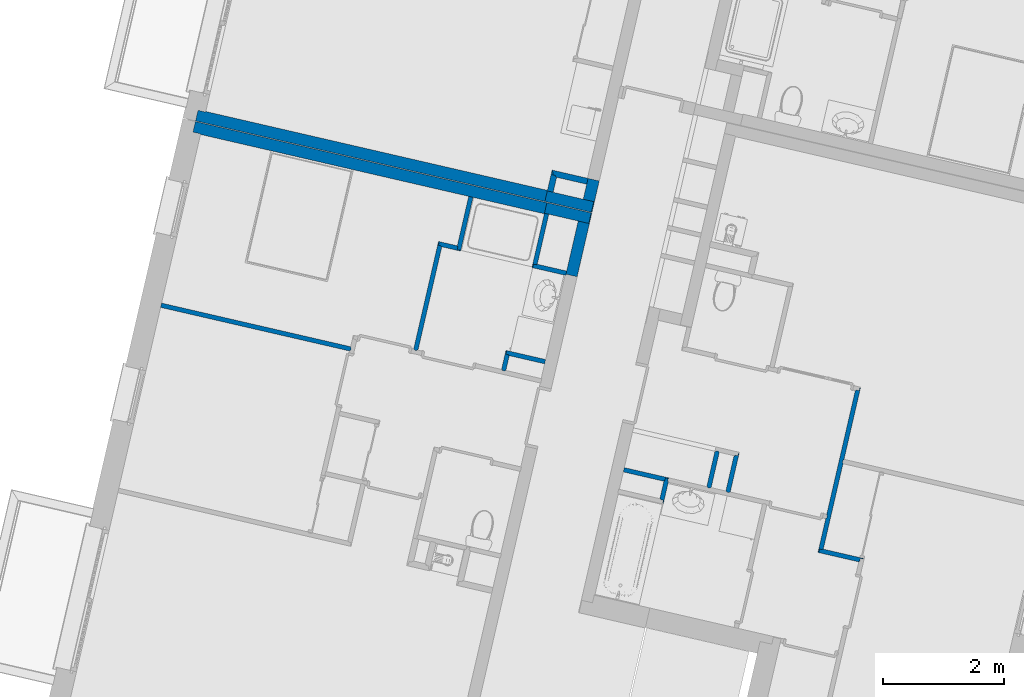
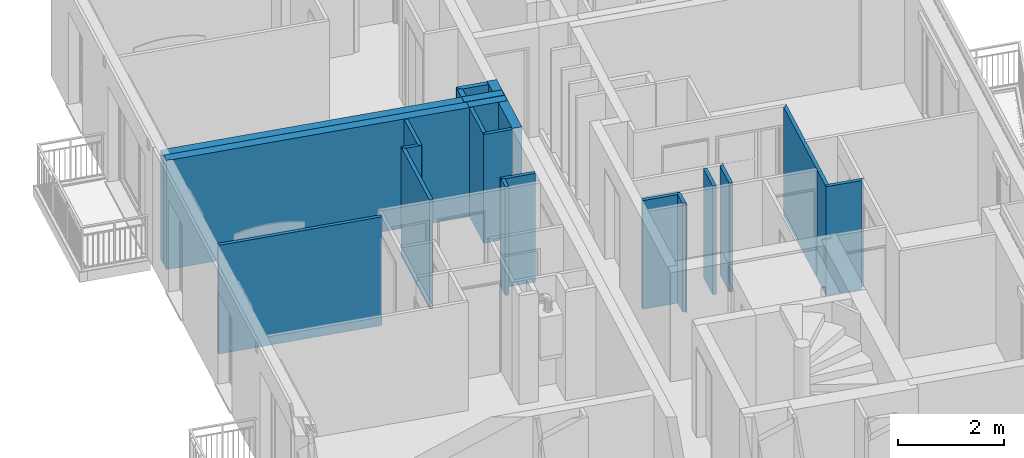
# One storey, part 44 of 91: 22 walls.
"""IFC2X3 building model written with IfcOpenShell, lengths in metres."""

from ifc_helpers import new_model, entity, si_unit, converted_unit, derived_unit, money_unit, direction, frame, origin_with_axes, place, context, subcontext, project, spatial, faceted_brep, material, material_list, type_object, element, save


model = new_model("IFC2X3")

# Units and contexts
model_context = context("Model", 3, precision=1e-05, world=origin_with_axes(), true_north=direction((0.0, 1.0)))
body_context = subcontext(model_context, "Body", "Model", "MODEL_VIEW")
ifc_project = project(units=[si_unit("LENGTHUNIT", "METRE"), si_unit("AREAUNIT", "SQUARE_METRE"), si_unit("VOLUMEUNIT", "CUBIC_METRE"), converted_unit("PLANEANGLEUNIT", "DEGREE", entity("IfcPlaneAngleMeasure", 0.0174532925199), si_unit("PLANEANGLEUNIT", "RADIAN"), dimensions=[0, 0, 0, 0, 0, 0, 0]), si_unit("SOLIDANGLEUNIT", "STERADIAN"), money_unit("EUR"), converted_unit("TIMEUNIT", "Year", entity("IfcTimeMeasure", 31556926.0), si_unit("TIMEUNIT", "SECOND"), dimensions=[0, 0, 1, 0, 0, 0, 0]), si_unit("MASSUNIT", "GRAM", prefix="KILO"), si_unit("THERMODYNAMICTEMPERATUREUNIT", "DEGREE_CELSIUS"), si_unit("LUMINOUSINTENSITYUNIT", "LUMEN"), si_unit("ENERGYUNIT", "JOULE", prefix="MEGA"), derived_unit("THERMALCONDUCTANCEUNIT", [(si_unit("POWERUNIT", "WATT"), 1), (si_unit("LENGTHUNIT", "METRE"), -1), (si_unit("THERMODYNAMICTEMPERATUREUNIT", "KELVIN"), -1)]), derived_unit("SPECIFICHEATCAPACITYUNIT", [(si_unit("ENERGYUNIT", "JOULE"), 1), (si_unit("MASSUNIT", "GRAM", prefix="KILO"), -1), (si_unit("THERMODYNAMICTEMPERATUREUNIT", "KELVIN"), -1)]), derived_unit("MASSDENSITYUNIT", [(si_unit("MASSUNIT", "GRAM", prefix="KILO"), 1), (si_unit("VOLUMEUNIT", "CUBIC_METRE"), -1)])], contexts=[model_context])

# Site, building, storey
site_placement = place(None, origin_with_axes())
site = spatial("IfcSite", under=ifc_project, at=site_placement, Name="Site", CompositionType="ELEMENT")
building_placement = place(site_placement, origin_with_axes())
building = spatial("IfcBuilding", under=site, at=building_placement, Name="Bâtiment", CompositionType="ELEMENT")
storey_placement = place(building_placement, frame((0.0, 0.0, 5.44), z_axis=(0.0, 0.0, 1.0), x_axis=(1.0, 0.0, 0.0)))
storey = spatial("IfcBuildingStorey", under=building, at=storey_placement, Name="R+2", CompositionType="ELEMENT", Elevation=5.44)

# Walls
ifc_material_1 = material(Name="Finition int - Plaque de plâtre")
ifc_material_2 = material(Name="Isolation - Laine de roche")
ifc_material_list_1 = material_list([ifc_material_1, ifc_material_2, ifc_material_1])
wall_type_1 = type_object("IfcWallType", Name="3 - Cloison 72mm Placostil 74", PredefinedType="USERDEFINED")
wall_1_placement = place(storey_placement, frame((-6.39424177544, -3.11506443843, 0.0), z_axis=(0.0, 0.0, 1.0), x_axis=(0.224876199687, 0.974387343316, 0.0)))
element("IfcWall", 1, at=wall_1_placement, inside=storey, type_object=wall_type_1, material=ifc_material_list_1, Name="Cloison Placostil 72/48", ObjectType="PARTITIONING", context=body_context, shape_type="Brep", body=[
    faceted_brep([(0.51300000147, -0.013, 2.5), (0.513000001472, 0.0, 2.5), (-0.061, 0.0, 2.5), (-0.0609999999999, -0.013, 2.5), (0.51300000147, -0.013, 0.0), (0.513000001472, 0.0, 0.0), (-0.061, 0.0, 0.0), (-0.0609999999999, -0.013, 0.0)], [[[0, 1, 2, 3]], [[1, 0, 4, 5]], [[1, 5, 6, 2]], [[7, 3, 2, 6]], [[4, 0, 3, 7]], [[5, 4, 7, 6]]]),
    faceted_brep([(2.6740000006, -0.013, 2.5), (2.6740000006, 0.0, 2.5), (0.561000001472, 0.0, 2.5), (0.56100000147, -0.013, 2.5), (2.6740000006, -0.013, 0.0), (2.6740000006, 0.0, 0.0), (0.561000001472, 0.0, 0.0), (0.56100000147, -0.013, 0.0)], [[[0, 1, 2, 3]], [[1, 0, 4, 5]], [[1, 5, 6, 2]], [[7, 3, 2, 6]], [[4, 0, 3, 7]], [[5, 4, 7, 6]]]),
    faceted_brep([(2.68700000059, -0.061, 2.5), (2.6870000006, -0.013, 2.5), (-0.0129999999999, -0.013, 2.5), (-0.0129999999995, -0.061, 2.5), (2.68700000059, -0.061, 0.0), (2.6870000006, -0.013, 0.0), (-0.0129999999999, -0.013, 0.0), (-0.0129999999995, -0.061, 0.0)], [[[0, 1, 2, 3]], [[1, 0, 4, 5]], [[1, 5, 6, 2]], [[7, 3, 2, 6]], [[4, 0, 3, 7]], [[5, 4, 7, 6]]]),
    faceted_brep([(2.73500000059, -0.074, 2.5), (2.73500000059, -0.061, 2.5), (1.51100000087, -0.061, 2.5), (1.51100000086, -0.074, 2.5), (2.73500000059, -0.074, 0.0), (2.73500000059, -0.061, 0.0), (1.51100000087, -0.061, 0.0), (1.51100000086, -0.074, 0.0)], [[[0, 1, 2, 3]], [[1, 0, 4, 5]], [[1, 5, 6, 2]], [[7, 3, 2, 6]], [[4, 0, 3, 7]], [[5, 4, 7, 6]]]),
    faceted_brep([(1.46300000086, -0.074, 2.5), (1.46300000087, -0.061, 2.5), (0.0, -0.061, 2.5), (0.0, -0.074, 2.5), (1.46300000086, -0.074, 0.0), (1.46300000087, -0.061, 0.0), (0.0, -0.061, 0.0), (0.0, -0.074, 0.0)], [[[0, 1, 2, 3]], [[1, 0, 4, 5]], [[1, 5, 6, 2]], [[7, 3, 2, 6]], [[4, 0, 3, 7]], [[5, 4, 7, 6]]]),
])
wall_2_placement = place(storey_placement, frame((-12.3216051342, 1.79729698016, 0.0), z_axis=(0.0, 0.0, 1.0), x_axis=(-0.974387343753, 0.224876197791, 0.0)))
element("IfcWall", 2, at=wall_2_placement, inside=storey, type_object=wall_type_1, material=ifc_material_list_1, Name="Cloison Placostil 72/48", ObjectType="PARTITIONING", context=body_context, shape_type="Brep", body=[
    faceted_brep([(0.332020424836, -0.013, 2.5), (0.332020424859, 0.0, 2.5), (0.013, 0.0, 2.5), (0.012999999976, -0.013, 2.5), (0.332020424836, -0.013, 0.0), (0.332020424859, 0.0, 0.0), (0.013, 0.0, 0.0), (0.012999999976, -0.013, 0.0)], [[[0, 1, 2, 3]], [[1, 0, 4, 5]], [[1, 5, 6, 2]], [[7, 3, 2, 6]], [[4, 0, 3, 7]], [[5, 4, 7, 6]]]),
    faceted_brep([(0.380020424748, -0.061, 2.5), (0.380020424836, -0.013, 2.5), (0.060999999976, -0.013, 2.5), (0.0609999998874, -0.061, 2.5), (0.380020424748, -0.061, 0.0), (0.380020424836, -0.013, 0.0), (0.060999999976, -0.013, 0.0), (0.0609999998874, -0.061, 0.0)], [[[0, 1, 2, 3]], [[1, 0, 4, 5]], [[1, 5, 6, 2]], [[7, 3, 2, 6]], [[4, 0, 3, 7]], [[5, 4, 7, 6]]]),
    faceted_brep([(0.393020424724, -0.074, 2.5), (0.393020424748, -0.061, 2.5), (0.0739999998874, -0.061, 2.5), (0.0739999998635, -0.074, 2.5), (0.393020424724, -0.074, 0.0), (0.393020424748, -0.061, 0.0), (0.0739999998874, -0.061, 0.0), (0.0739999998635, -0.074, 0.0)], [[[0, 1, 2, 3]], [[1, 0, 4, 5]], [[1, 5, 6, 2]], [[7, 3, 2, 6]], [[4, 0, 3, 7]], [[5, 4, 7, 6]]]),
])
wall_3_placement = place(storey_placement, frame((-5.7180169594, -3.27112852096, 0.0), z_axis=(0.0, 0.0, 1.0), x_axis=(-0.974387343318, 0.224876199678, 0.0)))
element("IfcWall", 3, at=wall_3_placement, inside=storey, type_object=wall_type_1, material=ifc_material_list_1, Name="Cloison Placostil 72/48", ObjectType="PARTITIONING", context=body_context, shape_type="Brep", body=[
    faceted_brep([(0.693999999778, 0.074, 0.0), (0.693999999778, 0.061, 0.0), (0.0, 0.061, 0.0), (0.0, 0.074, 0.0), (0.693999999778, 0.074, 2.5), (0.693999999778, 0.061, 2.5), (0.0, 0.061, 2.5), (0.0, 0.074, 2.5)], [[[0, 1, 2, 3]], [[1, 0, 4, 5]], [[1, 5, 6, 2]], [[7, 3, 2, 6]], [[4, 0, 3, 7]], [[5, 4, 7, 6]]]),
    faceted_brep([(0.680999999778, 0.061, 0.0), (0.680999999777, 0.013, 0.0), (-0.012999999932, 0.013, 0.0), (-0.0129999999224, 0.061, 0.0), (0.680999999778, 0.061, 2.5), (0.680999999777, 0.013, 2.5), (-0.012999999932, 0.013, 2.5), (-0.0129999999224, 0.061, 2.5)], [[[0, 1, 2, 3]], [[1, 0, 4, 5]], [[1, 5, 6, 2]], [[7, 3, 2, 6]], [[4, 0, 3, 7]], [[5, 4, 7, 6]]]),
    faceted_brep([(0.632999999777, 0.013, 0.0), (0.632999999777, 0.0, 0.0), (-0.0609999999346, 0.0, 0.0), (-0.060999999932, 0.013, 0.0), (0.632999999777, 0.013, 2.5), (0.632999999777, 0.0, 2.5), (-0.0609999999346, 0.0, 2.5), (-0.060999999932, 0.013, 2.5)], [[[0, 1, 2, 3]], [[1, 0, 4, 5]], [[1, 5, 6, 2]], [[7, 3, 2, 6]], [[4, 0, 3, 7]], [[5, 4, 7, 6]]]),
])
wall_4_placement = place(storey_placement, frame((-7.86201852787, -2.18723213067, 0.0), z_axis=(0.0, 0.0, 1.0), x_axis=(0.224876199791, 0.974387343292, 0.0)))
element("IfcWall", 4, at=wall_4_placement, inside=storey, type_object=wall_type_1, material=ifc_material_list_1, Name="Cloison Placostil 72/48", ObjectType="PARTITIONING", context=body_context, shape_type="Brep", body=[
    faceted_brep([(0.600000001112, 0.074, 0.0), (0.600000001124, 0.061, 0.0), (2.41132047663e-09, 0.061, 0.0), (2.41201103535e-09, 0.074, 0.0), (0.600000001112, 0.074, 2.5), (0.600000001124, 0.061, 2.5), (2.41132047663e-09, 0.061, 2.5), (2.41201147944e-09, 0.074, 2.5)], [[[0, 1, 2, 3]], [[1, 0, 4, 5]], [[1, 5, 6, 2]], [[7, 3, 2, 6]], [[4, 0, 3, 7]], [[5, 4, 7, 6]]]),
    faceted_brep([(0.613000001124, 0.061, 0.0), (0.61300000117, 0.013, 0.0), (-0.0129999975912, 0.013, 0.0), (-0.0129999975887, 0.061, 0.0), (0.613000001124, 0.061, 2.5), (0.61300000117, 0.013, 2.5), (-0.0129999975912, 0.013, 2.5), (-0.0129999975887, 0.061, 2.5)], [[[0, 1, 2, 3]], [[1, 0, 4, 5]], [[1, 5, 6, 2]], [[7, 3, 2, 6]], [[4, 0, 3, 7]], [[5, 4, 7, 6]]]),
    faceted_brep([(0.66100000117, 0.013, 0.0), (0.661000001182, 0.0, 0.0), (2.40808084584e-09, 0.0, 0.0), (2.40877273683e-09, 0.013, 0.0), (0.66100000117, 0.013, 2.5), (0.661000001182, 0.0, 2.5), (2.40808084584e-09, 0.0, 2.5), (2.40877273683e-09, 0.013, 2.5)], [[[0, 1, 2, 3]], [[1, 0, 4, 5]], [[1, 5, 6, 2]], [[7, 3, 2, 6]], [[4, 0, 3, 7]], [[5, 4, 7, 6]]]),
])
wall_5_placement = place(storey_placement, frame((-8.17772002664, -2.11437223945, 0.0), z_axis=(0.0, 0.0, 1.0), x_axis=(0.224876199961, 0.974387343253, 0.0)))
element("IfcWall", 5, at=wall_5_placement, inside=storey, type_object=wall_type_1, material=ifc_material_list_1, Name="Cloison Placostil 72/48", ObjectType="PARTITIONING", context=body_context, shape_type="Brep", body=[
    faceted_brep([(0.599999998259, 0.074, 0.0), (0.599999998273, 0.061, 0.0), (-1.14151355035e-10, 0.061, 0.0), (-1.15734533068e-10, 0.074, 0.0), (0.599999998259, 0.074, 2.5), (0.599999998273, 0.061, 2.5), (-1.14151355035e-10, 0.061, 2.5), (-1.15734533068e-10, 0.074, 2.5)], [[[0, 1, 2, 3]], [[1, 0, 4, 5]], [[1, 5, 6, 2]], [[7, 3, 2, 6]], [[4, 0, 3, 7]], [[5, 4, 7, 6]]]),
    faceted_brep([(0.612999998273, 0.061, 0.0), (0.612999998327, 0.013, 0.0), (-0.0130000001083, 0.013, 0.0), (-0.0130000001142, 0.061, 0.0), (0.612999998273, 0.061, 2.5), (0.612999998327, 0.013, 2.5), (-0.0130000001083, 0.013, 2.5), (-0.0130000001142, 0.061, 2.5)], [[[0, 1, 2, 3]], [[1, 0, 4, 5]], [[1, 5, 6, 2]], [[7, 3, 2, 6]], [[4, 0, 3, 7]], [[5, 4, 7, 6]]]),
    faceted_brep([(0.599999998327, 0.013, 0.0), (0.599999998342, 0.0, 0.0), (-1.06725739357e-10, 0.0, 0.0), (-1.08308029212e-10, 0.013, 0.0), (0.599999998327, 0.013, 2.5), (0.599999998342, 0.0, 2.5), (-1.06725739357e-10, 0.0, 2.5), (-1.08308029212e-10, 0.013, 2.5)], [[[0, 1, 2, 3]], [[1, 0, 4, 5]], [[1, 5, 6, 2]], [[7, 3, 2, 6]], [[4, 0, 3, 7]], [[5, 4, 7, 6]]]),
])
wall_6_placement = place(storey_placement, frame((-11.5724314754, 0.156328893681, 0.0), z_axis=(0.0, 0.0, 1.0), x_axis=(-0.224876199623, -0.974387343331, 0.0)))
element("IfcWall", 6, at=wall_6_placement, inside=storey, type_object=wall_type_1, material=ifc_material_list_1, Name="Cloison Placostil 72/48", ObjectType="PARTITIONING", context=body_context, shape_type="Brep", body=[
    faceted_brep([(0.324000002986, 0.074, 0.0), (0.324000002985, 0.061, 0.0), (0.0739999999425, 0.061, 0.0), (0.0739999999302, 0.074, 0.0), (0.324000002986, 0.074, 2.5), (0.324000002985, 0.061, 2.5), (0.0739999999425, 0.061, 2.5), (0.0739999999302, 0.074, 2.5)], [[[0, 1, 2, 3]], [[1, 0, 4, 5]], [[1, 5, 6, 2]], [[7, 3, 2, 6]], [[4, 0, 3, 7]], [[5, 4, 7, 6]]]),
    faceted_brep([(0.337000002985, 0.061, 0.0), (0.337000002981, 0.013, 0.0), (0.0609999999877, 0.013, 0.0), (0.0609999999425, 0.061, 0.0), (0.337000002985, 0.061, 2.5), (0.337000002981, 0.013, 2.5), (0.0609999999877, 0.013, 2.5), (0.0609999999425, 0.061, 2.5)], [[[0, 1, 2, 3]], [[1, 0, 4, 5]], [[1, 5, 6, 2]], [[7, 3, 2, 6]], [[4, 0, 3, 7]], [[5, 4, 7, 6]]]),
    faceted_brep([(0.324000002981, 0.013, 0.0), (0.324000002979, 0.0, 0.0), (0.013, 0.0, 0.0), (0.0129999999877, 0.013, 0.0), (0.324000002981, 0.013, 2.5), (0.324000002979, 0.0, 2.5), (0.013, 0.0, 2.5), (0.0129999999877, 0.013, 2.5)], [[[0, 1, 2, 3]], [[1, 0, 4, 5]], [[1, 5, 6, 2]], [[7, 3, 2, 6]], [[4, 0, 3, 7]], [[5, 4, 7, 6]]]),
])
wall_7_placement = place(storey_placement, frame((-13.0436333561, 0.0874017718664, 0.0), z_axis=(0.0, 0.0, 1.0), x_axis=(0.224876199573, 0.974387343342, 0.0)))
element("IfcWall", 7, at=wall_7_placement, inside=storey, type_object=wall_type_1, material=ifc_material_list_1, Name="Cloison Placostil 72/48", ObjectType="PARTITIONING", context=body_context, shape_type="Brep", body=[
    faceted_brep([(1.88946721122, 0.074, 0.0), (1.88946721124, 0.061, 0.0), (0.0740000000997, 0.061, 0.0), (0.0740000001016, 0.074, 0.0), (1.88946721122, 0.074, 2.5), (1.88946721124, 0.061, 2.5), (0.0740000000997, 0.061, 2.5), (0.0740000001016, 0.074, 2.5)], [[[0, 1, 2, 3]], [[1, 0, 4, 5]], [[1, 5, 6, 2]], [[7, 3, 2, 6]], [[4, 0, 3, 7]], [[5, 4, 7, 6]]]),
    faceted_brep([(1.84146721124, 0.061, 0.0), (1.84146721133, 0.013, 0.0), (0.0610000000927, 0.013, 0.0), (0.0610000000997, 0.061, 0.0), (1.84146721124, 0.061, 2.5), (1.84146721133, 0.013, 2.5), (0.0610000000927, 0.013, 2.5), (0.0610000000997, 0.061, 2.5)], [[[0, 1, 2, 3]], [[1, 0, 4, 5]], [[1, 5, 6, 2]], [[7, 3, 2, 6]], [[4, 0, 3, 7]], [[5, 4, 7, 6]]]),
    faceted_brep([(1.82846721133, 0.013, 0.0), (1.82846721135, 0.0, 0.0), (0.0740000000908, 0.0, 0.0), (0.0740000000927, 0.013, 0.0), (1.82846721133, 0.013, 2.5), (1.82846721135, 0.0, 2.5), (0.0740000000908, 0.0, 2.5), (0.0740000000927, 0.013, 2.5)], [[[0, 1, 2, 3]], [[1, 0, 4, 5]], [[1, 5, 6, 2]], [[7, 3, 2, 6]], [[4, 0, 3, 7]], [[5, 4, 7, 6]]]),
])
wall_8_placement = place(storey_placement, frame((-12.3216051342, 1.79729698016, 0.0), z_axis=(0.0, 0.0, 1.0), x_axis=(0.224876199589, 0.974387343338, 0.0)))
element("IfcWall", 8, at=wall_8_placement, inside=storey, type_object=wall_type_1, material=ifc_material_list_1, Name="Cloison Placostil 72/48", ObjectType="PARTITIONING", context=body_context, shape_type="Brep", body=[
    faceted_brep([(0.0609999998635, 0.074, 0.0), (0.912999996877, 0.074, 0.0), (0.912999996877, 0.061, 0.0), (0.0609999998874, 0.061, 0.0), (0.0609999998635, 0.074, 2.5), (0.912999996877, 0.074, 2.5), (0.912999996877, 0.061, 2.5), (0.0609999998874, 0.061, 2.5)], [[[0, 1, 2, 3]], [[4, 5, 1, 0]], [[2, 1, 5, 6]], [[3, 2, 6, 7]], [[4, 0, 3, 7]], [[7, 6, 5, 4]]]),
    faceted_brep([(0.0129999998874, 0.061, 0.0), (0.912999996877, 0.061, 0.0), (0.912999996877, 0.013, 0.0), (0.012999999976, 0.013, 0.0), (0.0129999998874, 0.061, 2.5), (0.912999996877, 0.061, 2.5), (0.912999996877, 0.013, 2.5), (0.012999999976, 0.013, 2.5)], [[[0, 1, 2, 3]], [[4, 5, 1, 0]], [[2, 1, 5, 6]], [[3, 2, 6, 7]], [[4, 0, 3, 7]], [[7, 6, 5, 4]]]),
    faceted_brep([(0.0, 0.013, 0.0), (0.912999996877, 0.013, 0.0), (0.912999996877, 0.0, 0.0), (0.0, 0.0, 0.0), (0.0, 0.013, 2.5), (0.912999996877, 0.013, 2.5), (0.912999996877, 0.0, 2.5), (0.0, 0.0, 2.5)], [[[0, 1, 2, 3]], [[4, 5, 1, 0]], [[2, 1, 5, 6]], [[3, 2, 6, 7]], [[4, 0, 3, 7]], [[7, 6, 5, 4]]]),
])
wall_9_placement = place(storey_placement, frame((-10.9156944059, 0.00476233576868, 0.0), z_axis=(0.0, 0.0, 1.0), x_axis=(-0.974387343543, 0.224876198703, 0.0)))
element("IfcWall", 9, at=wall_9_placement, inside=storey, type_object=wall_type_1, material=ifc_material_list_1, Name="Cloison Placostil 72/48", ObjectType="PARTITIONING", context=body_context, shape_type="Brep", body=[
    faceted_brep([(0.613000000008, 0.074, 0.0), (0.612999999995, 0.061, 0.0), (0.0, 0.061, 0.0), (0.0, 0.074, 0.0), (0.613000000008, 0.074, 2.5), (0.612999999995, 0.061, 2.5), (0.0, 0.061, 2.5), (0.0, 0.074, 2.5)], [[[0, 1, 2, 3]], [[1, 0, 4, 5]], [[1, 5, 6, 2]], [[7, 3, 2, 6]], [[4, 0, 3, 7]], [[5, 4, 7, 6]]]),
    faceted_brep([(0.660999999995, 0.061, 0.0), (0.66099999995, 0.013, 0.0), (0.0, 0.013, 0.0), (0.0, 0.061, 0.0), (0.660999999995, 0.061, 2.5), (0.66099999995, 0.013, 2.5), (0.0, 0.013, 2.5), (0.0, 0.061, 2.5)], [[[0, 1, 2, 3]], [[1, 0, 4, 5]], [[1, 5, 6, 2]], [[7, 3, 2, 6]], [[4, 0, 3, 7]], [[5, 4, 7, 6]]]),
    faceted_brep([(0.67399999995, 0.013, 0.0), (0.673999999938, 0.0, 0.0), (0.0, 0.0, 0.0), (0.0, 0.013, 0.0), (0.67399999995, 0.013, 2.5), (0.673999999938, 0.0, 2.5), (0.0, 0.0, 2.5), (0.0, 0.013, 2.5)], [[[0, 1, 2, 3]], [[1, 0, 4, 5]], [[1, 5, 6, 2]], [[7, 3, 2, 6]], [[4, 0, 3, 7]], [[5, 4, 7, 6]]]),
])
wall_10_placement = place(storey_placement, frame((-14.085182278, 0.127992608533, 0.0), z_axis=(0.0, 0.0, 1.0), x_axis=(-0.974387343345, 0.224876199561, 0.0)))
element("IfcWall", 10, at=wall_10_placement, inside=storey, type_object=wall_type_1, material=ifc_material_list_1, Name="Cloison Placostil 72/48", ObjectType="PARTITIONING", context=body_context, shape_type="Brep", body=[
    faceted_brep([(0.0740000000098, -0.013, 2.5), (3.28428996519, -0.013, 2.5), (3.28428996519, 0.0, 2.5), (0.0740000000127, 0.0, 2.5), (0.0740000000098, -0.013, 0.0), (3.28428996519, -0.013, 0.0), (3.28428996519, 0.0, 0.0), (0.0740000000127, 0.0, 0.0)], [[[0, 1, 2, 3]], [[4, 5, 1, 0]], [[2, 1, 5, 6]], [[3, 2, 6, 7]], [[4, 0, 3, 7]], [[7, 6, 5, 4]]]),
    faceted_brep([(0.0609999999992, -0.061, 2.5), (3.28428996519, -0.061, 2.5), (3.28428996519, -0.013, 2.5), (0.0610000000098, -0.013, 2.5), (0.0609999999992, -0.061, 0.0), (3.28428996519, -0.061, 0.0), (3.28428996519, -0.013, 0.0), (0.0610000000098, -0.013, 0.0)], [[[0, 1, 2, 3]], [[4, 5, 1, 0]], [[2, 1, 5, 6]], [[3, 2, 6, 7]], [[4, 0, 3, 7]], [[7, 6, 5, 4]]]),
    faceted_brep([(0.0739999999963, -0.074, 2.5), (3.28428996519, -0.074, 2.5), (3.28428996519, -0.061, 2.5), (0.0739999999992, -0.061, 2.5), (0.0739999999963, -0.074, 0.0), (3.28428996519, -0.074, 0.0), (3.28428996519, -0.061, 0.0), (0.0739999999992, -0.061, 0.0)], [[[0, 1, 2, 3]], [[4, 5, 1, 0]], [[2, 1, 5, 6]], [[3, 2, 6, 7]], [[4, 0, 3, 7]], [[7, 6, 5, 4]]]),
])
wall_type_2 = type_object("IfcWallType", Name="3 - Cloison Gaine Technique 72mm 74", PredefinedType="USERDEFINED")
wall_11_placement = place(storey_placement, frame((-8.97025376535, -2.38667692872, 0.0), z_axis=(0.0, 0.0, 1.0), x_axis=(0.224876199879, 0.974387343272, 0.0)))
element("IfcWall", 11, at=wall_11_placement, inside=storey, type_object=wall_type_2, material=ifc_material_list_1, Name="Cloison Placostil 72/48", ObjectType="PARTITIONING", context=body_context, shape_type="Brep", body=[
    faceted_brep([(0.382552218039, 0.074, 0.0), (0.38255221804, 0.061, 0.0), (0.0740000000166, 0.061, 0.0), (0.0740000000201, 0.074, 0.0), (0.382552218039, 0.074, 2.5), (0.38255221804, 0.061, 2.5), (0.0740000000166, 0.061, 2.5), (0.0740000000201, 0.074, 2.5)], [[[0, 1, 2, 3]], [[1, 0, 4, 5]], [[1, 5, 6, 2]], [[7, 3, 2, 6]], [[4, 0, 3, 7]], [[5, 4, 7, 6]]]),
    faceted_brep([(0.0610000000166, 0.061, 0.0), (0.43055221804, 0.061, 0.0), (0.430552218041, 0.013, 0.0), (0.0610000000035, 0.013, 0.0), (0.0610000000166, 0.061, 2.5), (0.43055221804, 0.061, 2.5), (0.430552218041, 0.013, 2.5), (0.0610000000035, 0.013, 2.5)], [[[0, 1, 2, 3]], [[4, 5, 1, 0]], [[6, 2, 1, 5]], [[3, 2, 6, 7]], [[7, 4, 0, 3]], [[7, 6, 5, 4]]]),
    faceted_brep([(0.013, 0.0, 0.0), (0.382552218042, 0.0, 0.0), (0.382552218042, 0.0, 2.5), (0.013, 0.0, 2.5), (0.0130000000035, 0.013, 0.0), (0.382552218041, 0.013, 0.0), (0.382552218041, 0.013, 2.5), (0.0130000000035, 0.013, 2.5)], [[[0, 1, 2, 3]], [[4, 5, 1, 0]], [[5, 6, 2, 1]], [[3, 2, 6, 7]], [[3, 7, 4, 0]], [[7, 6, 5, 4]]]),
    faceted_brep([(0.443552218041, 0.013, 2.5), (0.430552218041, 0.013, 2.5), (0.430552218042, 0.0, 2.5), (0.443552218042, 0.0, 2.5), (0.443552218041, 0.013, 0.0), (0.430552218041, 0.013, 0.0), (0.430552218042, 0.0, 0.0), (0.443552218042, 0.0, 0.0)], [[[0, 1, 2, 3]], [[4, 5, 1, 0]], [[5, 6, 2, 1]], [[3, 2, 6, 7]], [[3, 7, 4, 0]], [[7, 6, 5, 4]]]),
])
wall_12_placement = place(storey_placement, frame((-8.87050942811, -1.95448526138, 0.0), z_axis=(0.0, 0.0, 1.0), x_axis=(-0.97438734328, 0.224876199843, 0.0)))
element("IfcWall", 12, at=wall_12_placement, inside=storey, type_object=wall_type_2, material=ifc_material_list_1, Name="Cloison Placostil 72/48", ObjectType="PARTITIONING", context=body_context, shape_type="Brep", body=[
    faceted_brep([(0.0740000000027, 0.074, 0.0), (0.763000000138, 0.074, 0.0), (0.763000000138, 0.061, 0.0), (0.0740000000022, 0.061, 0.0), (0.0740000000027, 0.074, 2.5), (0.763000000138, 0.074, 2.5), (0.763000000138, 0.061, 2.5), (0.0740000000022, 0.061, 2.5)], [[[0, 1, 2, 3]], [[4, 5, 1, 0]], [[2, 1, 5, 6]], [[3, 2, 6, 7]], [[4, 0, 3, 7]], [[7, 6, 5, 4]]]),
    faceted_brep([(0.0610000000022, 0.061, 0.0), (0.763000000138, 0.061, 0.0), (0.763000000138, 0.013, 0.0), (0.0610000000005, 0.013, 0.0), (0.0610000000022, 0.061, 2.5), (0.763000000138, 0.061, 2.5), (0.763000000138, 0.013, 2.5), (0.0610000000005, 0.013, 2.5)], [[[0, 1, 2, 3]], [[4, 5, 1, 0]], [[2, 1, 5, 6]], [[3, 2, 6, 7]], [[4, 0, 3, 7]], [[7, 6, 5, 4]]]),
    faceted_brep([(0.013, 0.0, 0.0), (0.0130000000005, 0.013, 0.0), (0.763000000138, 0.013, 0.0), (0.763000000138, 0.0, 0.0), (0.013, 0.0, 2.5), (0.0130000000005, 0.013, 2.5), (0.763000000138, 0.013, 2.5), (0.763000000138, 0.0, 2.5)], [[[0, 1, 2, 3]], [[4, 5, 1, 0]], [[1, 5, 6, 2]], [[7, 3, 2, 6]], [[4, 0, 3, 7]], [[5, 4, 7, 6]]]),
])
wall_13_placement = place(storey_placement, frame((-10.5676316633, 1.4684473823, 0.0), z_axis=(0.0, 0.0, 1.0), x_axis=(-0.974387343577, 0.224876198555, 0.0)))
element("IfcWall", 13, at=wall_13_placement, inside=storey, type_object=wall_type_2, material=ifc_material_list_1, Name="Cloison Placostil 72/48", ObjectType="PARTITIONING", context=body_context, shape_type="Brep", body=[
    faceted_brep([(0.572999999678, 0.074, 0.0), (0.572999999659, 0.061, 0.0), (0.0, 0.061, 0.0), (0.0, 0.074, 0.0), (0.572999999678, 0.074, 2.5), (0.572999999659, 0.061, 2.5), (0.0, 0.061, 2.5), (0.0, 0.074, 2.5)], [[[0, 1, 2, 3]], [[1, 0, 4, 5]], [[1, 5, 6, 2]], [[7, 3, 2, 6]], [[4, 0, 3, 7]], [[5, 4, 7, 6]]]),
    faceted_brep([(0.559999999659, 0.061, 0.0), (0.55999999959, 0.013, 0.0), (0.0, 0.013, 0.0), (0.0, 0.061, 0.0), (0.559999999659, 0.061, 2.5), (0.55999999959, 0.013, 2.5), (0.0, 0.013, 2.5), (0.0, 0.061, 2.5)], [[[0, 1, 2, 3]], [[1, 0, 4, 5]], [[1, 5, 6, 2]], [[7, 3, 2, 6]], [[4, 0, 3, 7]], [[5, 4, 7, 6]]]),
    faceted_brep([(0.51199999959, 0.013, 0.0), (0.511999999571, 0.0, 0.0), (0.0, 0.0, 0.0), (0.0, 0.013, 0.0), (0.51199999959, 0.013, 2.5), (0.511999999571, 0.0, 2.5), (0.0, 0.0, 2.5), (0.0, 0.013, 2.5)], [[[0, 1, 2, 3]], [[1, 0, 4, 5]], [[1, 5, 6, 2]], [[7, 3, 2, 6]], [[4, 0, 3, 7]], [[5, 4, 7, 6]]]),
])
wall_14_placement = place(storey_placement, frame((-11.1259556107, 1.59730144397, 0.0), z_axis=(0.0, 0.0, 1.0), x_axis=(0.224876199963, 0.974387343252, 0.0)))
element("IfcWall", 14, at=wall_14_placement, inside=storey, type_object=wall_type_2, material=ifc_material_list_1, Name="Cloison Placostil 72/48", ObjectType="PARTITIONING", context=body_context, shape_type="Brep", body=[
    faceted_brep([(-0.0609999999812, -0.013, 2.5), (0.848999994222, -0.013, 2.5), (0.848999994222, 0.0, 2.5), (-0.061, 0.0, 2.5), (-0.0609999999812, -0.013, 0.0), (0.848999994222, -0.013, 0.0), (0.848999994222, 0.0, 0.0), (-0.061, 0.0, 0.0)], [[[0, 1, 2, 3]], [[4, 5, 1, 0]], [[2, 1, 5, 6]], [[3, 2, 6, 7]], [[4, 0, 3, 7]], [[7, 6, 5, 4]]]),
    faceted_brep([(-0.0129999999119, -0.061, 2.5), (0.848999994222, -0.061, 2.5), (0.848999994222, -0.013, 2.5), (-0.0129999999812, -0.013, 2.5), (-0.0129999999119, -0.061, 0.0), (0.848999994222, -0.061, 0.0), (0.848999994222, -0.013, 0.0), (-0.0129999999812, -0.013, 0.0)], [[[0, 1, 2, 3]], [[4, 5, 1, 0]], [[2, 1, 5, 6]], [[3, 2, 6, 7]], [[4, 0, 3, 7]], [[7, 6, 5, 4]]]),
    faceted_brep([(1.06900488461e-10, -0.074, 2.5), (0.848999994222, -0.074, 2.5), (0.848999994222, -0.061, 2.5), (0.0, -0.061, 2.5), (1.06900488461e-10, -0.074, 0.0), (0.848999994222, -0.074, 0.0), (0.848999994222, -0.061, 0.0), (0.0, -0.061, 0.0)], [[[0, 1, 2, 3]], [[4, 5, 1, 0]], [[2, 1, 5, 6]], [[3, 2, 6, 7]], [[4, 0, 3, 7]], [[7, 6, 5, 4]]]),
])
ifc_material_3 = material(Name="Finition int - Enduit plâtre")
ifc_material_4 = material(Name="Béton")
ifc_material_list_2 = material_list([ifc_material_3, ifc_material_4])
wall_type_3 = type_object("IfcWallType", Name="2 - Murs Béton 18 + Enduit 1 Face 190", PredefinedType="USERDEFINED")
wall_15_placement = place(storey_placement, frame((-10.2139014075, 3.00115867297, 0.0), z_axis=(0.0, 0.0, 1.0), x_axis=(-0.22487619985, -0.974387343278, 0.0)))
element("IfcWall", 15, at=wall_15_placement, inside=storey, type_object=wall_type_3, material=ifc_material_list_2, Name="M_Ext-009", ObjectType="SOLIDWALL", context=body_context, shape_type="Brep", body=[
    faceted_brep([(0.0, 0.18, 2.51), (0.0, 0.19, 2.51), (0.0, 0.19, 0.0), (0.0, 0.18, 0.0), (0.534000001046, 0.19, 2.51), (0.534000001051, 0.18, 2.51), (0.534000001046, 0.19, 0.0), (0.534000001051, 0.18, 0.0)], [[[0, 1, 2, 3]], [[4, 1, 0, 5]], [[1, 4, 6, 2]], [[3, 2, 6, 7]], [[5, 0, 3, 7]], [[4, 5, 7, 6]]]),
    faceted_brep([(0.0, 0.0, 2.51), (0.0, 0.18, 2.51), (0.0, 0.18, 0.0), (0.0, 0.0, 0.0), (0.354000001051, 0.18, 2.51), (0.354000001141, 0.0, 2.51), (0.354000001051, 0.18, 0.0), (0.354000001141, 0.0, 0.0)], [[[0, 1, 2, 3]], [[4, 1, 0, 5]], [[1, 4, 6, 2]], [[7, 3, 2, 6]], [[5, 0, 3, 7]], [[4, 5, 7, 6]]]),
])
wall_16_placement = place(storey_placement, frame((-10.1608443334, 2.43061423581, 0.0), z_axis=(0.0, 0.0, 1.0), x_axis=(-0.22487619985, -0.974387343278, 0.0)))
element("IfcWall", 16, at=wall_16_placement, inside=storey, type_object=wall_type_3, material=ifc_material_list_2, Name="M_Ext-009", ObjectType="SOLIDWALL", context=body_context, shape_type="Brep", body=[
    faceted_brep([(0.0, 0.0, 2.51), (0.0, 0.01, 2.51), (0.0, 0.01, 0.0), (0.0, 0.0, 0.0), (1.08299999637, 0.01, 2.51), (1.08299999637, 0.0, 2.51), (1.08299999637, 0.01, 0.0), (1.08299999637, 0.0, 0.0)], [[[0, 1, 2, 3]], [[4, 1, 0, 5]], [[1, 4, 6, 2]], [[2, 6, 7, 3]], [[5, 0, 3, 7]], [[4, 5, 7, 6]]]),
    faceted_brep([(0.179999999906, -0.18, 2.51), (0.18, 0.0, 2.51), (0.18, 0.0, 0.0), (0.179999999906, -0.18, 0.0), (1.08299999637, 0.0, 2.51), (1.08299999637, -0.18, 2.51), (1.08299999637, 0.0, 0.0), (1.08299999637, -0.18, 0.0)], [[[0, 1, 2, 3]], [[4, 1, 0, 5]], [[1, 4, 6, 2]], [[2, 6, 7, 3]], [[5, 0, 3, 7]], [[4, 5, 7, 6]]]),
])
ifc_material_list_3 = material_list([ifc_material_4, ifc_material_3])
wall_17_placement = place(storey_placement, frame((-10.9283615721, 2.61801031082, 0.0), z_axis=(0.0, 0.0, 1.0), x_axis=(-0.974387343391, 0.22487619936, 0.0)))
element("IfcWall", 17, at=wall_17_placement, inside=storey, type_object=wall_type_3, material=ifc_material_list_3, Name="M_Ext-009", ObjectType="SOLIDWALL", context=body_context, shape_type="Brep", body=[
    faceted_brep([(0.0, -0.18, 0.0), (5.93031038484, -0.18, 0.0), (5.93031038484, -0.18, 2.5), (0.0, -0.18, 2.5), (0.0, 0.0, 0.0), (5.93031038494, 0.0, 0.0), (5.93031038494, 0.0, 2.5), (0.0, 0.0, 2.5)], [[[0, 1, 2, 3]], [[4, 5, 1, 0]], [[5, 6, 2, 1]], [[3, 2, 6, 7]], [[7, 4, 0, 3]], [[7, 6, 5, 4]]]),
    faceted_brep([(0.0, -0.19, 0.0), (5.80031038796, -0.19, 0.0), (5.80031038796, -0.19, 2.5), (0.0, -0.19, 2.5), (0.0, -0.18, 0.0), (5.80031038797, -0.18, 0.0), (5.80031038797, -0.18, 2.5), (0.0, -0.18, 2.5)], [[[0, 1, 2, 3]], [[4, 5, 1, 0]], [[5, 6, 2, 1]], [[3, 2, 6, 7]], [[7, 4, 0, 3]], [[7, 6, 5, 4]]]),
])
wall_18_placement = place(storey_placement, frame((-10.8945580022, 2.59994601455, 0.0), z_axis=(0.0, 0.0, 1.0), x_axis=(-0.974387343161, 0.224876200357, 0.0)))
element("IfcWall", 18, at=wall_18_placement, inside=storey, type_object=wall_type_3, material=ifc_material_list_2, Name="M_Ext-009", ObjectType="SOLIDWALL", context=body_context, shape_type="Brep", body=[
    faceted_brep([(5.83731038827, 0.18, 2.51), (0.0, 0.18, 2.51), (0.0, 0.18, 0.0), (5.83731038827, 0.18, 0.0), (0.0, 0.19, 2.51), (5.83731038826, 0.19, 2.51), (0.0, 0.19, 0.0), (5.83731038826, 0.19, 0.0)], [[[0, 1, 2, 3]], [[4, 1, 0, 5]], [[1, 4, 6, 2]], [[6, 7, 3, 2]], [[5, 0, 3, 7]], [[4, 5, 7, 6]]]),
    faceted_brep([(5.96731038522, 0.0, 2.51), (0.0, 0.0, 2.51), (0.0, 0.0, 0.0), (5.96731038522, 0.0, 0.0), (0.0, 0.18, 2.51), (5.96731038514, 0.18, 2.51), (0.0, 0.18, 0.0), (5.96731038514, 0.18, 0.0)], [[[0, 1, 2, 3]], [[4, 1, 0, 5]], [[1, 4, 6, 2]], [[6, 7, 3, 2]], [[5, 0, 3, 7]], [[4, 5, 7, 6]]]),
])
wall_type_4 = type_object("IfcWallType", Name="Béton 180", PredefinedType="USERDEFINED")
wall_19_placement = place(storey_placement, frame((-10.3339852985, 2.48083583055, 0.0), z_axis=(0.0, 0.0, 1.0), x_axis=(-0.974387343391, 0.22487619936, 0.0)))
element("IfcWall", 19, at=wall_19_placement, inside=storey, type_object=wall_type_4, material=ifc_material_4, Name="M_Ext-009", ObjectType="SOLIDWALL", context=body_context, shape_type="Brep", body=[
    faceted_brep([(0.609999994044, -0.18, 0.0), (0.609999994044, -0.18, 2.51), (-0.180000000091, -0.18, 2.51), (-0.180000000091, -0.18, 0.0), (0.609999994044, 0.0, 0.0), (0.609999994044, 0.0, 2.51), (-0.18, 0.0, 2.51), (-0.18, 0.0, 0.0)], [[[0, 1, 2, 3]], [[4, 5, 1, 0]], [[5, 6, 2, 1]], [[3, 2, 6, 7]], [[3, 7, 4, 0]], [[7, 6, 5, 4]]]),
])
wall_20_placement = place(storey_placement, frame((-10.1608443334, 2.43061423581, 0.0), z_axis=(0.0, 0.0, 1.0), x_axis=(-0.974387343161, 0.224876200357, 0.0)))
element("IfcWall", 20, at=wall_20_placement, inside=storey, type_object=wall_type_4, material=ifc_material_4, Name="M_Ext-009", ObjectType="SOLIDWALL", context=body_context, shape_type="Brep", body=[
    faceted_brep([(0.752999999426, 0.0, 0.0), (0.752999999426, 0.0, 2.51), (0.0, 0.0, 2.51), (0.0, 0.0, 0.0), (0.752999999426, 0.18, 0.0), (0.752999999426, 0.18, 2.51), (0.0, 0.18, 2.51), (0.0, 0.18, 0.0)], [[[0, 1, 2, 3]], [[4, 5, 1, 0]], [[5, 6, 2, 1]], [[3, 2, 6, 7]], [[3, 7, 4, 0]], [[7, 6, 5, 4]]]),
])
ifc_material_list_4 = material_list([ifc_material_1, ifc_material_1, ifc_material_2, ifc_material_1, ifc_material_1])
wall_type_5 = type_object("IfcWallType", Name="3 - Cloison Gaine Technique 98mm 100", PredefinedType="USERDEFINED")
wall_21_placement = place(storey_placement, frame((-10.2139014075, 3.00115867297, 0.0), z_axis=(0.0, 0.0, 1.0), x_axis=(-0.974387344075, 0.224876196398, 0.0)))
element("IfcWall", 21, at=wall_21_placement, inside=storey, type_object=wall_type_5, material=ifc_material_list_4, Name="Cloison 98 isolée", ObjectType="PARTITIONING", context=body_context, shape_type="Brep", body=[
    faceted_brep([(0.522999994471, 0.1, 2.5), (3.5431035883e-10, 0.1, 2.5), (3.08251202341e-10, 0.087, 2.5), (0.522999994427, 0.087, 2.5), (0.522999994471, 0.1, 0.0), (3.5431035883e-10, 0.1, 0.0), (3.08251202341e-10, 0.087, 0.0), (0.522999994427, 0.087, 0.0)], [[[0, 1, 2, 3]], [[4, 5, 1, 0]], [[5, 6, 2, 1]], [[3, 2, 6, 7]], [[4, 0, 3, 7]], [[7, 6, 5, 4]]]),
    faceted_brep([(0.535999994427, 0.087, 2.5), (3.08251202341e-10, 0.087, 2.5), (2.62190269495e-10, 0.074, 2.5), (0.535999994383, 0.074, 2.5), (0.535999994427, 0.087, 0.0), (3.08251202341e-10, 0.087, 0.0), (2.62190269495e-10, 0.074, 0.0), (0.535999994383, 0.074, 0.0)], [[[0, 1, 2, 3]], [[4, 5, 1, 0]], [[5, 6, 2, 1]], [[3, 2, 6, 7]], [[4, 0, 3, 7]], [[7, 6, 5, 4]]]),
    faceted_brep([(0.583999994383, 0.074, 2.5), (2.62190269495e-10, 0.074, 2.5), (0.0, 0.026, 2.5), (0.583999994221, 0.026, 2.5), (0.583999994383, 0.074, 0.0), (2.62190269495e-10, 0.074, 0.0), (0.0, 0.026, 0.0), (0.583999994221, 0.026, 0.0)], [[[0, 1, 2, 3]], [[4, 5, 1, 0]], [[5, 6, 2, 1]], [[3, 2, 6, 7]], [[4, 0, 3, 7]], [[7, 6, 5, 4]]]),
    faceted_brep([(0.596999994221, 0.026, 2.5), (0.0, 0.026, 2.5), (0.0, 0.013, 2.5), (0.596999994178, 0.013, 2.5), (0.596999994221, 0.026, 0.0), (0.0, 0.026, 0.0), (0.0, 0.013, 0.0), (0.596999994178, 0.013, 0.0)], [[[0, 1, 2, 3]], [[4, 5, 1, 0]], [[5, 6, 2, 1]], [[3, 2, 6, 7]], [[4, 0, 3, 7]], [[7, 6, 5, 4]]]),
    faceted_brep([(0.609999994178, 0.013, 2.5), (0.0, 0.013, 2.5), (0.0, 0.0, 2.5), (0.609999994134, 0.0, 2.5), (0.609999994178, 0.013, 0.0), (0.0, 0.013, 0.0), (0.0, 0.0, 0.0), (0.609999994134, 0.0, 0.0)], [[[0, 1, 2, 3]], [[4, 5, 1, 0]], [[6, 2, 1, 5]], [[3, 2, 6, 7]], [[4, 0, 3, 7]], [[7, 6, 5, 4]]]),
])
wall_22_placement = place(storey_placement, frame((-10.8082776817, 3.13833315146, 0.0), z_axis=(0.0, 0.0, 1.0), x_axis=(-0.224876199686, -0.974387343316, 0.0)))
element("IfcWall", 22, at=wall_22_placement, inside=storey, type_object=wall_type_5, material=ifc_material_list_4, Name="Cloison 98 isolée", ObjectType="PARTITIONING", context=body_context, shape_type="Brep", body=[
    faceted_brep([(0.0999999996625, 0.1, 0.0), (0.353999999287, 0.1, 0.0), (0.353999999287, 0.087, 0.0), (0.0999999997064, 0.087, 0.0), (0.0999999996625, 0.1, 2.5), (0.353999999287, 0.1, 2.5), (0.353999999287, 0.087, 2.5), (0.0999999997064, 0.087, 2.5)], [[[0, 1, 2, 3]], [[4, 5, 1, 0]], [[2, 1, 5, 6]], [[3, 2, 6, 7]], [[4, 0, 3, 7]], [[7, 6, 5, 4]]]),
    faceted_brep([(0.0869999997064, 0.087, 0.0), (0.353999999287, 0.087, 0.0), (0.353999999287, 0.074, 0.0), (0.0869999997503, 0.074, 0.0), (0.0869999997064, 0.087, 2.5), (0.353999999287, 0.087, 2.5), (0.353999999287, 0.074, 2.5), (0.0869999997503, 0.074, 2.5)], [[[0, 1, 2, 3]], [[4, 5, 1, 0]], [[2, 1, 5, 6]], [[3, 2, 6, 7]], [[4, 0, 3, 7]], [[7, 6, 5, 4]]]),
    faceted_brep([(0.0739999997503, 0.074, 0.0), (0.353999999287, 0.074, 0.0), (0.353999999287, 0.026, 0.0), (0.0739999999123, 0.026, 0.0), (0.0739999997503, 0.074, 2.5), (0.353999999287, 0.074, 2.5), (0.353999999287, 0.026, 2.5), (0.0739999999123, 0.026, 2.5)], [[[0, 1, 2, 3]], [[4, 5, 1, 0]], [[2, 1, 5, 6]], [[3, 2, 6, 7]], [[4, 0, 3, 7]], [[7, 6, 5, 4]]]),
    faceted_brep([(0.0259999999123, 0.026, 0.0), (0.353999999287, 0.026, 0.0), (0.353999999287, 0.013, 0.0), (0.0259999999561, 0.013, 0.0), (0.0259999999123, 0.026, 2.5), (0.353999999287, 0.026, 2.5), (0.353999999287, 0.013, 2.5), (0.0259999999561, 0.013, 2.5)], [[[0, 1, 2, 3]], [[4, 5, 1, 0]], [[2, 1, 5, 6]], [[3, 2, 6, 7]], [[4, 0, 3, 7]], [[7, 6, 5, 4]]]),
    faceted_brep([(0.0129999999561, 0.013, 0.0), (0.353999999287, 0.013, 0.0), (0.353999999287, 0.0, 0.0), (0.013, 0.0, 0.0), (0.0129999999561, 0.013, 2.5), (0.353999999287, 0.013, 2.5), (0.353999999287, 0.0, 2.5), (0.013, 0.0, 2.5)], [[[0, 1, 2, 3]], [[4, 5, 1, 0]], [[2, 1, 5, 6]], [[3, 2, 6, 7]], [[4, 0, 3, 7]], [[7, 6, 5, 4]]]),
])

save(model, "model.ifc")
